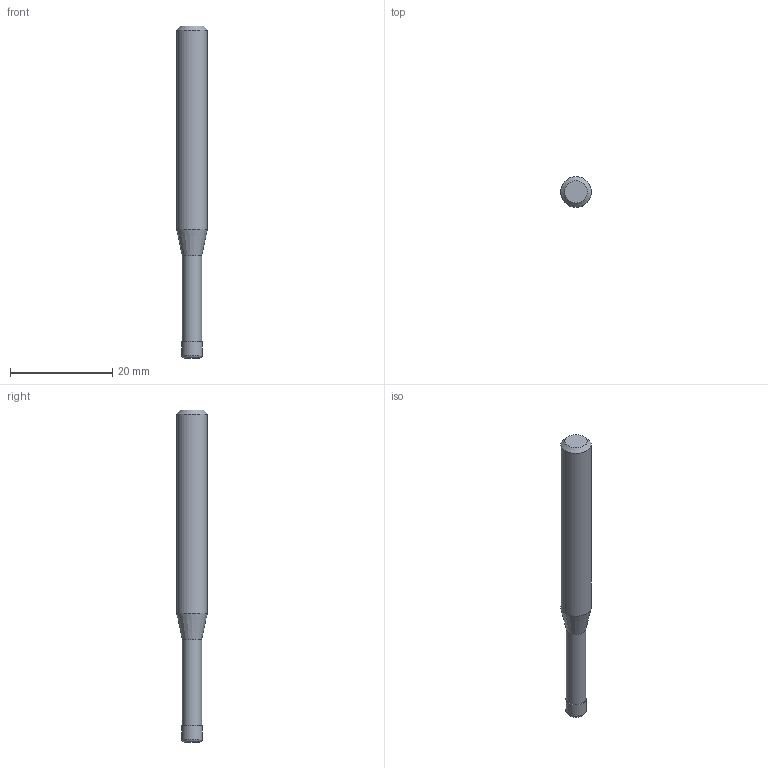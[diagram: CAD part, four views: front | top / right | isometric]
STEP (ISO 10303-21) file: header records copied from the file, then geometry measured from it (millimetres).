
FILE_DESCRIPTION((''),'2;1');
FILE_NAME('C:\Users\nsx150\AppData\Local\Temp\Mastercam 2021\CSMVKW3037\TEMP.step','2023-06-23T16:04:40',(''),(''),'STEP Write','Mastercam 2021 ... CNC Software, Inc.','');
FILE_SCHEMA(('AUTOMOTIVE_DESIGN'));
Length unit declared in the file: millimetre
Products named in the file (1): None
Bounding box: 6 x 6 x 65 mm (x, y, z)
Volume: 1449.9 mm3; surface area: 1125.2 mm2
Topology: 2 solids, 2 shells, 10 faces, 14 edges, 8 vertices
Faces by surface type: plane 4, cylinder 3, cone 2, torus 1
Full cylindrical faces by diameter (mm): 3.8 x1, 4 x1, 6 x1
Entity records: 232 total; most frequent: DIRECTION 40, CARTESIAN_POINT 28, AXIS2_PLACEMENT_3D 20, ORIENTED_EDGE 16, EDGE_LOOP 16, STYLED_ITEM 13, ADVANCED_FACE 10, FACE_BOUND 10
